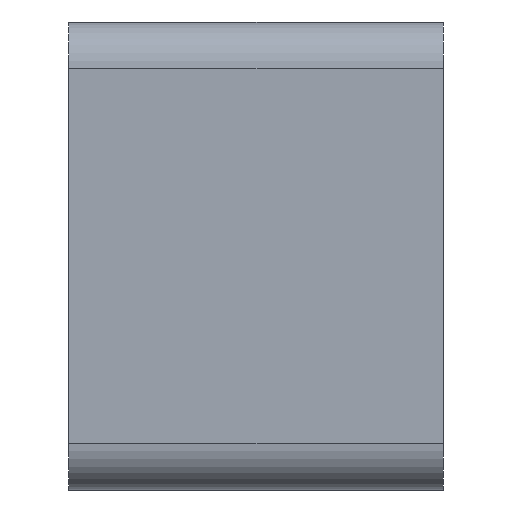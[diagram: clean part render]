
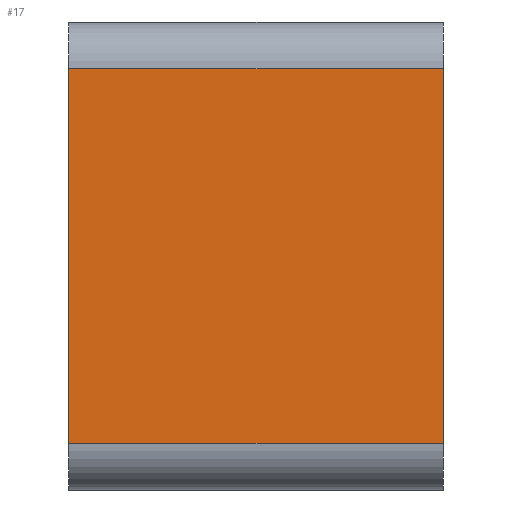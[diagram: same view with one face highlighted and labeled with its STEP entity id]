
A CAD part, left-side view. The second image highlights one B-rep face of the part: STEP entity #17.
In plain terms, the highlighted planar face has unit normal (-1, 0, 0).
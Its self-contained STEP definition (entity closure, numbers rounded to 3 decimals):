
#17 = ADVANCED_FACE('',(#18),#32,.F.);
#18 = FACE_BOUND('',#19,.F.);
#19 = EDGE_LOOP('',(#20,#55,#83,#111));
#20 = ORIENTED_EDGE('',*,*,#21,.F.);
#21 = EDGE_CURVE('',#22,#24,#26,.T.);
#22 = VERTEX_POINT('',#23);
#23 = CARTESIAN_POINT('',(-19.,-38.5,96.));
#24 = VERTEX_POINT('',#25);
#25 = CARTESIAN_POINT('',(-19.,-38.5,104.));
#26 = SURFACE_CURVE('',#27,(#31,#43),.PCURVE_S1.);
#27 = LINE('',#28,#29);
#28 = CARTESIAN_POINT('',(-19.,-38.5,95.));
#29 = VECTOR('',#30,1.);
#30 = DIRECTION('',(0.,0.,1.));
#31 = PCURVE('',#32,#37);
#32 = PLANE('',#33);
#33 = AXIS2_PLACEMENT_3D('',#34,#35,#36);
#34 = CARTESIAN_POINT('',(-19.,-38.5,95.));
#35 = DIRECTION('',(1.,0.,-0.));
#36 = DIRECTION('',(0.,0.,1.));
#37 = DEFINITIONAL_REPRESENTATION('',(#38),#42);
#38 = LINE('',#39,#40);
#39 = CARTESIAN_POINT('',(0.,0.));
#40 = VECTOR('',#41,1.);
#41 = DIRECTION('',(1.,0.));
#42 = ( GEOMETRIC_REPRESENTATION_CONTEXT(2) 
PARAMETRIC_REPRESENTATION_CONTEXT() REPRESENTATION_CONTEXT('2D SPACE',''
  ) );
#43 = PCURVE('',#44,#49);
#44 = PLANE('',#45);
#45 = AXIS2_PLACEMENT_3D('',#46,#47,#48);
#46 = CARTESIAN_POINT('',(-19.,-38.5,95.));
#47 = DIRECTION('',(-0.,1.,0.));
#48 = DIRECTION('',(0.,0.,1.));
#49 = DEFINITIONAL_REPRESENTATION('',(#50),#54);
#50 = LINE('',#51,#52);
#51 = CARTESIAN_POINT('',(0.,0.));
#52 = VECTOR('',#53,1.);
#53 = DIRECTION('',(1.,0.));
#54 = ( GEOMETRIC_REPRESENTATION_CONTEXT(2) 
PARAMETRIC_REPRESENTATION_CONTEXT() REPRESENTATION_CONTEXT('2D SPACE',''
  ) );
#55 = ORIENTED_EDGE('',*,*,#56,.T.);
#56 = EDGE_CURVE('',#22,#57,#59,.T.);
#57 = VERTEX_POINT('',#58);
#58 = CARTESIAN_POINT('',(-19.,-30.5,96.));
#59 = SURFACE_CURVE('',#60,(#64,#71),.PCURVE_S1.);
#60 = LINE('',#61,#62);
#61 = CARTESIAN_POINT('',(-19.,-38.5,96.));
#62 = VECTOR('',#63,1.);
#63 = DIRECTION('',(-0.,1.,0.));
#64 = PCURVE('',#32,#65);
#65 = DEFINITIONAL_REPRESENTATION('',(#66),#70);
#66 = LINE('',#67,#68);
#67 = CARTESIAN_POINT('',(1.,0.));
#68 = VECTOR('',#69,1.);
#69 = DIRECTION('',(0.,-1.));
#70 = ( GEOMETRIC_REPRESENTATION_CONTEXT(2) 
PARAMETRIC_REPRESENTATION_CONTEXT() REPRESENTATION_CONTEXT('2D SPACE',''
  ) );
#71 = PCURVE('',#72,#77);
#72 = CYLINDRICAL_SURFACE('',#73,1.);
#73 = AXIS2_PLACEMENT_3D('',#74,#75,#76);
#74 = CARTESIAN_POINT('',(-18.,-38.5,96.));
#75 = DIRECTION('',(-0.,1.,0.));
#76 = DIRECTION('',(-1.,-0.,0.));
#77 = DEFINITIONAL_REPRESENTATION('',(#78),#82);
#78 = LINE('',#79,#80);
#79 = CARTESIAN_POINT('',(-0.,0.));
#80 = VECTOR('',#81,1.);
#81 = DIRECTION('',(-0.,1.));
#82 = ( GEOMETRIC_REPRESENTATION_CONTEXT(2) 
PARAMETRIC_REPRESENTATION_CONTEXT() REPRESENTATION_CONTEXT('2D SPACE',''
  ) );
#83 = ORIENTED_EDGE('',*,*,#84,.T.);
#84 = EDGE_CURVE('',#57,#85,#87,.T.);
#85 = VERTEX_POINT('',#86);
#86 = CARTESIAN_POINT('',(-19.,-30.5,104.));
#87 = SURFACE_CURVE('',#88,(#92,#99),.PCURVE_S1.);
#88 = LINE('',#89,#90);
#89 = CARTESIAN_POINT('',(-19.,-30.5,95.));
#90 = VECTOR('',#91,1.);
#91 = DIRECTION('',(0.,0.,1.));
#92 = PCURVE('',#32,#93);
#93 = DEFINITIONAL_REPRESENTATION('',(#94),#98);
#94 = LINE('',#95,#96);
#95 = CARTESIAN_POINT('',(0.,-8.));
#96 = VECTOR('',#97,1.);
#97 = DIRECTION('',(1.,0.));
#98 = ( GEOMETRIC_REPRESENTATION_CONTEXT(2) 
PARAMETRIC_REPRESENTATION_CONTEXT() REPRESENTATION_CONTEXT('2D SPACE',''
  ) );
#99 = PCURVE('',#100,#105);
#100 = PLANE('',#101);
#101 = AXIS2_PLACEMENT_3D('',#102,#103,#104);
#102 = CARTESIAN_POINT('',(-19.,-30.5,95.));
#103 = DIRECTION('',(-0.,1.,0.));
#104 = DIRECTION('',(0.,0.,1.));
#105 = DEFINITIONAL_REPRESENTATION('',(#106),#110);
#106 = LINE('',#107,#108);
#107 = CARTESIAN_POINT('',(0.,0.));
#108 = VECTOR('',#109,1.);
#109 = DIRECTION('',(1.,0.));
#110 = ( GEOMETRIC_REPRESENTATION_CONTEXT(2) 
PARAMETRIC_REPRESENTATION_CONTEXT() REPRESENTATION_CONTEXT('2D SPACE',''
  ) );
#111 = ORIENTED_EDGE('',*,*,#112,.F.);
#112 = EDGE_CURVE('',#24,#85,#113,.T.);
#113 = SURFACE_CURVE('',#114,(#118,#125),.PCURVE_S1.);
#114 = LINE('',#115,#116);
#115 = CARTESIAN_POINT('',(-19.,-38.5,104.));
#116 = VECTOR('',#117,1.);
#117 = DIRECTION('',(-0.,1.,0.));
#118 = PCURVE('',#32,#119);
#119 = DEFINITIONAL_REPRESENTATION('',(#120),#124);
#120 = LINE('',#121,#122);
#121 = CARTESIAN_POINT('',(9.,0.));
#122 = VECTOR('',#123,1.);
#123 = DIRECTION('',(0.,-1.));
#124 = ( GEOMETRIC_REPRESENTATION_CONTEXT(2) 
PARAMETRIC_REPRESENTATION_CONTEXT() REPRESENTATION_CONTEXT('2D SPACE',''
  ) );
#125 = PCURVE('',#126,#131);
#126 = CYLINDRICAL_SURFACE('',#127,1.);
#127 = AXIS2_PLACEMENT_3D('',#128,#129,#130);
#128 = CARTESIAN_POINT('',(-18.,-38.5,104.));
#129 = DIRECTION('',(-0.,1.,0.));
#130 = DIRECTION('',(-1.,-0.,0.));
#131 = DEFINITIONAL_REPRESENTATION('',(#132),#136);
#132 = LINE('',#133,#134);
#133 = CARTESIAN_POINT('',(0.,0.));
#134 = VECTOR('',#135,1.);
#135 = DIRECTION('',(0.,1.));
#136 = ( GEOMETRIC_REPRESENTATION_CONTEXT(2) 
PARAMETRIC_REPRESENTATION_CONTEXT() REPRESENTATION_CONTEXT('2D SPACE',''
  ) );
